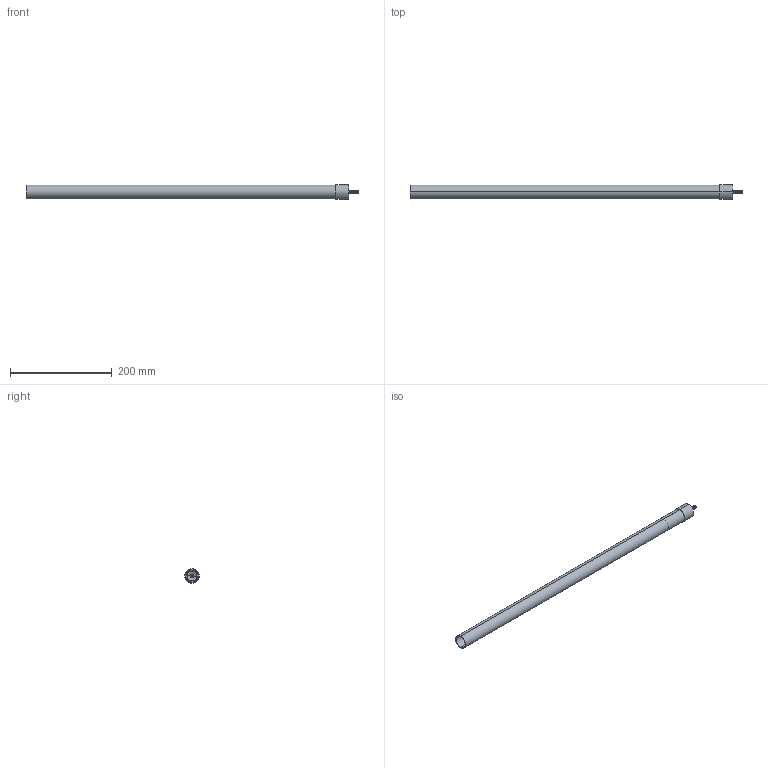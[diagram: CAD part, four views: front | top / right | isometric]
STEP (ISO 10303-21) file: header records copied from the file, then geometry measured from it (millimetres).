
FILE_DESCRIPTION (( 'STEP AP214' ), '1' );
FILE_NAME ('Threaded End Connector.STEP', '2013-08-19T12:59:30', ( 'ydmin' ), ( 'Microsoft' ), 'SwSTEP 2.0', 'SolidWorks 2013', '' );
FILE_SCHEMA (( 'AUTOMOTIVE_DESIGN' ));
Length unit declared in the file: inch
Products named in the file (3): DRP-002-0518-00; 6.000 Inch Tube; Threaded End Connector
Assembly tree (2 placements, depth 2):
  Threaded End Connector
    6.000 Inch Tube
    DRP-002-0518-00
Bounding box: 653.22 x 28.57 x 28.57 mm (x, y, z)
Volume: 77285.9 mm3; surface area: 114064.8 mm2
Topology: 4 solids, 4 shells, 253 faces, 522 edges, 277 vertices
Faces by surface type: cone 111, cylinder 110, plane 20, bspline 8, sphere 2, torus 2
Entity records: 15814 total; most frequent: CARTESIAN_POINT 7601, DIRECTION 1044, ORIENTED_EDGE 1040, EDGE_CURVE 520, AXIS2_PLACEMENT_3D 402, VERTEX_POINT 277, EDGE_LOOP 259, ADVANCED_FACE 253
